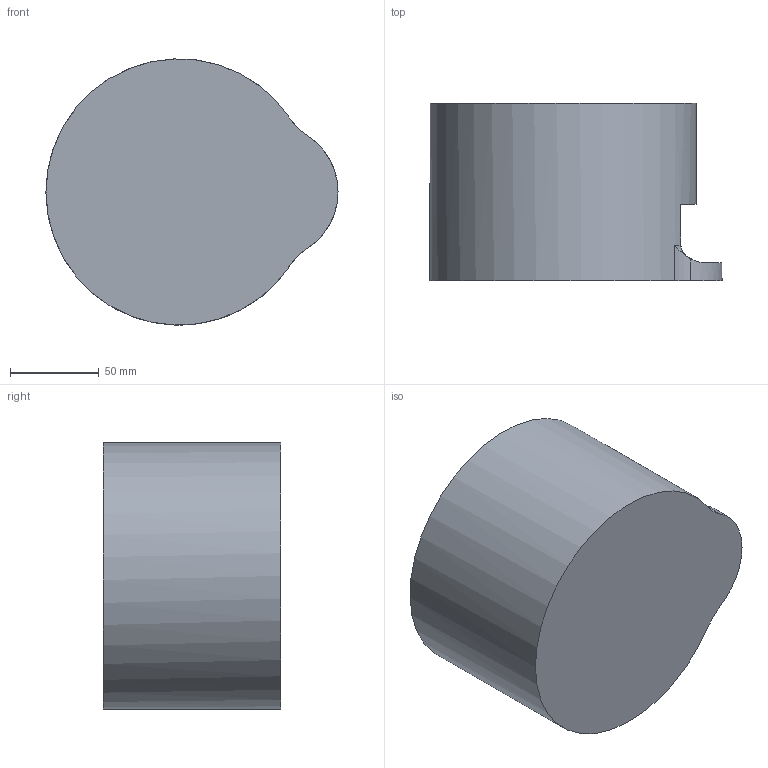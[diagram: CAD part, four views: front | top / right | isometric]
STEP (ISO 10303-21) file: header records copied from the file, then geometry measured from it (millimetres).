
FILE_DESCRIPTION(/* description */ ('STEP AP242 Edition 2','CAx-IF Rec.Pracs.---Representation and Presentation of Product Manufacturing Information (PMI)---4.0---2014-10-13','CAx-IF Rec.Pracs.---3D Tessellated Geometry---0.4---2014-09-14','2;1','CAx-IF Rec.Pracs.---User Defined Attributes---1.5---2016-08-15'),/* implementation_level */ '2;1');
FILE_NAME(/* name */ 'Base Dispensador - Part 1',/* time_stamp */ '2026-02-04T08:19:21Z',/* author */ (''),/* organization */ (''),/* preprocessor_version */ 'ST-DEVELOPER v20',/* originating_system */ 'ONSHAPE BY PTC INC, 1.210',/* authorisation */ ' ');
FILE_SCHEMA (('AP242_MANAGED_MODEL_BASED_3D_ENGINEERING_MIM_LF { 1 0 10303 442 3 1 4 }'));
Length unit declared in the file: metre
Products named in the file (1): Part 1
Bounding box: 164.53 x 100 x 149.95 mm (x, y, z)
Volume: 183189.9 mm3; surface area: 124118.2 mm2
Topology: 1 solids, 1 shells, 20 faces, 54 edges, 35 vertices
Faces by surface type: cylinder 11, plane 7, torus 2
Full cylindrical faces by diameter (mm): 144 x1, 150 x1
Entity records: 631 total; most frequent: CARTESIAN_POINT 155, ORIENTED_EDGE 96, DIRECTION 90, EDGE_CURVE 48, AXIS2_PLACEMENT_3D 36, VERTEX_POINT 32, EDGE_LOOP 22, FACE_BOUND 22
